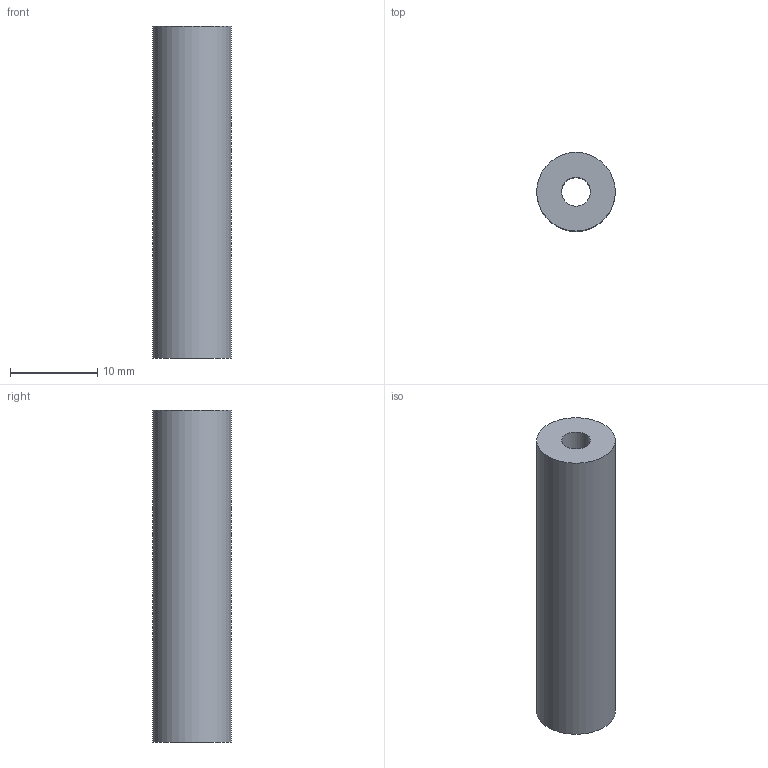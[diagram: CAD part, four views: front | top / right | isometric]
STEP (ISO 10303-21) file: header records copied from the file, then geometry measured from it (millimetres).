
FILE_DESCRIPTION(('Open CASCADE Model'),'2;1');
FILE_NAME('Open CASCADE Shape Model','2026-11-24T19:57:38',('Author'),( 'Open CASCADE'),'Open CASCADE STEP processor 7.8','Open CASCADE 7.8' ,'Unknown');
FILE_SCHEMA(('AUTOMOTIVE_DESIGN { 1 0 10303 214 1 1 1 1 }'));
Length unit declared in the file: millimetre
Products named in the file (1): Open CASCADE STEP translator 7.8 11
Bounding box: 9 x 9 x 38 mm (x, y, z)
Volume: 2092.4 mm3; surface area: 1578.5 mm2
Topology: 1 solids, 1 shells, 4 faces, 6 edges, 4 vertices
Faces by surface type: cylinder 2, plane 2
Full cylindrical faces by diameter (mm): 3.3 x1, 9 x1
Entity records: 184 total; most frequent: DIRECTION 30, CARTESIAN_POINT 29, ORIENTED_EDGE 12, PCURVE 12, DEFINITIONAL_REPRESENTATION 12, AXIS2_PLACEMENT_3D 9, CIRCLE 8, LINE 8
